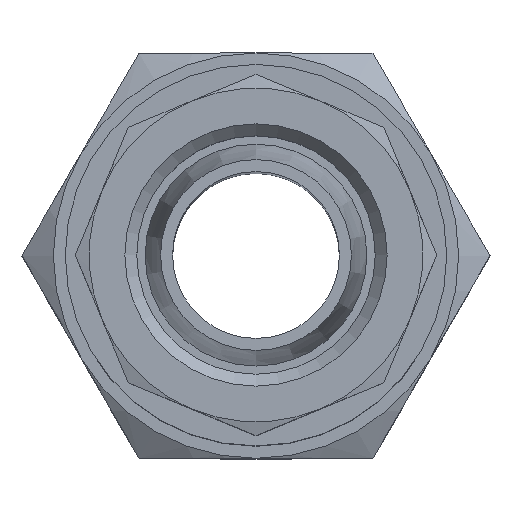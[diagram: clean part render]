
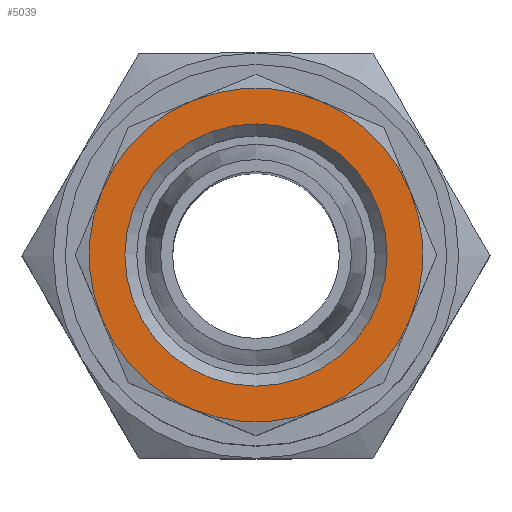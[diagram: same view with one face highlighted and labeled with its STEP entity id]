
A CAD part, top view. The second image highlights one B-rep face of the part: STEP entity #5039.
In plain terms, the highlighted planar face has unit normal (0, 0, 1) as drawn and (0, 1, 0) by its records, which use the part's own axes.
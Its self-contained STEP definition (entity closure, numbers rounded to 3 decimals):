
#2696=ORIENTED_EDGE('',*,*,#3169,.F.);
#2697=ORIENTED_EDGE('',*,*,#3170,.F.);
#2698=ORIENTED_EDGE('',*,*,#3171,.F.);
#2699=ORIENTED_EDGE('',*,*,#3172,.F.);
#2700=ORIENTED_EDGE('',*,*,#3173,.F.);
#2701=ORIENTED_EDGE('',*,*,#3174,.F.);
#2702=ORIENTED_EDGE('',*,*,#3175,.F.);
#2703=ORIENTED_EDGE('',*,*,#3176,.F.);
#2704=ORIENTED_EDGE('',*,*,#3168,.T.);
#2856=CIRCLE('',#4849,5.5);
#2857=CIRCLE('',#4851,7.);
#2858=CIRCLE('',#4852,7.);
#2859=CIRCLE('',#4853,7.);
#2860=CIRCLE('',#4854,7.);
#2861=CIRCLE('',#4855,7.);
#2862=CIRCLE('',#4856,7.);
#2863=CIRCLE('',#4857,7.);
#2864=CIRCLE('',#4858,7.);
#2978=VERTEX_POINT('',#4517);
#2979=VERTEX_POINT('',#4520);
#2980=VERTEX_POINT('',#4521);
#2981=VERTEX_POINT('',#4523);
#2982=VERTEX_POINT('',#4525);
#2983=VERTEX_POINT('',#4527);
#2984=VERTEX_POINT('',#4529);
#2985=VERTEX_POINT('',#4531);
#2986=VERTEX_POINT('',#4533);
#3168=EDGE_CURVE('',#2978,#2978,#2856,.T.);
#3169=EDGE_CURVE('',#2979,#2980,#2857,.T.);
#3170=EDGE_CURVE('',#2981,#2979,#2858,.T.);
#3171=EDGE_CURVE('',#2982,#2981,#2859,.T.);
#3172=EDGE_CURVE('',#2983,#2982,#2860,.T.);
#3173=EDGE_CURVE('',#2984,#2983,#2861,.T.);
#3174=EDGE_CURVE('',#2985,#2984,#2862,.T.);
#3175=EDGE_CURVE('',#2986,#2985,#2863,.T.);
#3176=EDGE_CURVE('',#2980,#2986,#2864,.T.);
#3344=EDGE_LOOP('',(#2696,#2697,#2698,#2699,#2700,#2701,#2702,#2703));
#3345=EDGE_LOOP('',(#2704));
#3504=FACE_BOUND('',#3344,.T.);
#3505=FACE_BOUND('',#3345,.T.);
#4024=DIRECTION('',(0.,-1.,0.));
#4025=DIRECTION('',(0.,0.,-5.5));
#4026=DIRECTION('',(0.,1.,0.));
#4027=DIRECTION('',(1.,0.,0.));
#4028=DIRECTION('',(0.,-1.,0.));
#4029=DIRECTION('',(0.,0.,7.));
#4030=DIRECTION('',(0.,-1.,0.));
#4031=DIRECTION('',(0.,0.,7.));
#4032=DIRECTION('',(0.,-1.,0.));
#4033=DIRECTION('',(0.,0.,7.));
#4034=DIRECTION('',(0.,-1.,0.));
#4035=DIRECTION('',(0.,0.,7.));
#4036=DIRECTION('',(0.,-1.,0.));
#4037=DIRECTION('',(0.,0.,7.));
#4038=DIRECTION('',(0.,-1.,0.));
#4039=DIRECTION('',(0.,0.,7.));
#4040=DIRECTION('',(0.,-1.,0.));
#4041=DIRECTION('',(0.,0.,7.));
#4042=DIRECTION('',(0.,-1.,0.));
#4043=DIRECTION('',(0.,0.,7.));
#4517=CARTESIAN_POINT('',(26.989,28.095,-5.5));
#4518=CARTESIAN_POINT('',(26.989,28.095,0.));
#4519=CARTESIAN_POINT('',(29.668,28.095,6.467));
#4520=CARTESIAN_POINT('',(20.522,28.095,-2.679));
#4521=CARTESIAN_POINT('',(24.31,28.095,-6.467));
#4522=CARTESIAN_POINT('',(26.989,28.095,0.));
#4523=CARTESIAN_POINT('',(20.522,28.095,2.679));
#4524=CARTESIAN_POINT('',(26.989,28.095,0.));
#4525=CARTESIAN_POINT('',(24.31,28.095,6.467));
#4526=CARTESIAN_POINT('',(26.989,28.095,0.));
#4527=CARTESIAN_POINT('',(29.668,28.095,6.467));
#4528=CARTESIAN_POINT('',(26.989,28.095,0.));
#4529=CARTESIAN_POINT('',(33.456,28.095,2.679));
#4530=CARTESIAN_POINT('',(26.989,28.095,0.));
#4531=CARTESIAN_POINT('',(33.456,28.095,-2.679));
#4532=CARTESIAN_POINT('',(26.989,28.095,0.));
#4533=CARTESIAN_POINT('',(29.668,28.095,-6.467));
#4534=CARTESIAN_POINT('',(26.989,28.095,0.));
#4535=CARTESIAN_POINT('',(26.989,28.095,0.));
#4849=AXIS2_PLACEMENT_3D('',#4518,#4024,#4025);
#4850=AXIS2_PLACEMENT_3D('',#4519,#4026,#4027);
#4851=AXIS2_PLACEMENT_3D('',#4522,#4028,#4029);
#4852=AXIS2_PLACEMENT_3D('',#4524,#4030,#4031);
#4853=AXIS2_PLACEMENT_3D('',#4526,#4032,#4033);
#4854=AXIS2_PLACEMENT_3D('',#4528,#4034,#4035);
#4855=AXIS2_PLACEMENT_3D('',#4530,#4036,#4037);
#4856=AXIS2_PLACEMENT_3D('',#4532,#4038,#4039);
#4857=AXIS2_PLACEMENT_3D('',#4534,#4040,#4041);
#4858=AXIS2_PLACEMENT_3D('',#4535,#4042,#4043);
#4937=PLANE('',#4850);
#5039=ADVANCED_FACE('',(#3504,#3505),#4937,.T.);
